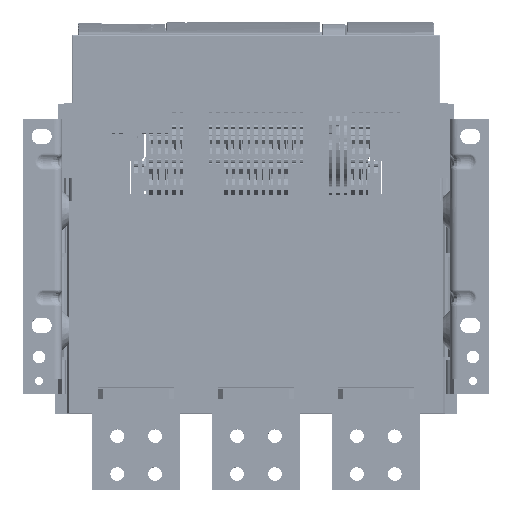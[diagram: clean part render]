
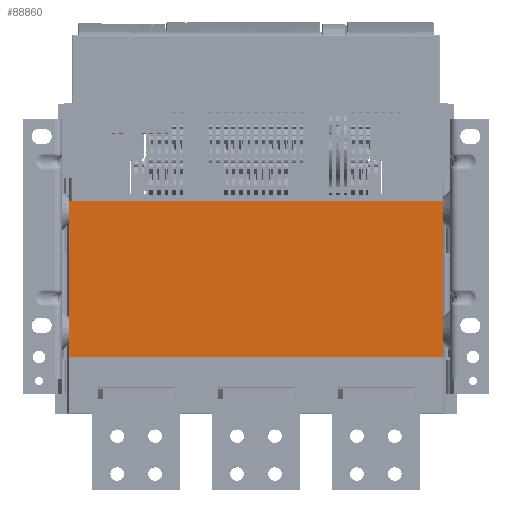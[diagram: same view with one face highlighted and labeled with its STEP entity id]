
A CAD part, top view. The second image highlights one B-rep face of the part: STEP entity #88860.
In plain terms, the highlighted planar face has unit normal (0, 0, 1).
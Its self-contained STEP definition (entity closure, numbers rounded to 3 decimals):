
#6164=FACE_OUTER_BOUND('',#11146,.T.);
#11146=EDGE_LOOP('',(#70036,#70037,#70038,#70039));
#20869=LINE('',#179003,#30195);
#20947=LINE('',#179179,#30273);
#21181=LINE('',#179690,#30507);
#21183=LINE('',#179694,#30509);
#30195=VECTOR('',#110963,296.);
#30273=VECTOR('',#111065,296.);
#30507=VECTOR('',#111493,123.);
#30509=VECTOR('',#111499,123.);
#39513=VERTEX_POINT('',#179000);
#39514=VERTEX_POINT('',#179002);
#39599=VERTEX_POINT('',#179176);
#39600=VERTEX_POINT('',#179178);
#50236=EDGE_CURVE('',#39513,#39514,#20869,.T.);
#50324=EDGE_CURVE('',#39600,#39599,#20947,.T.);
#50580=EDGE_CURVE('',#39599,#39514,#21181,.T.);
#50582=EDGE_CURVE('',#39600,#39513,#21183,.T.);
#70036=ORIENTED_EDGE('',*,*,#50324,.T.);
#70037=ORIENTED_EDGE('',*,*,#50580,.T.);
#70038=ORIENTED_EDGE('',*,*,#50236,.F.);
#70039=ORIENTED_EDGE('',*,*,#50582,.F.);
#84345=PLANE('',#95608);
#88860=ADVANCED_FACE('',(#6164),#84345,.T.);
#95608=AXIS2_PLACEMENT_3D('',#179693,#111497,#111498);
#110963=DIRECTION('',(1.,0.,0.));
#111065=DIRECTION('',(1.,0.,0.));
#111493=DIRECTION('',(0.,1.,0.));
#111497=DIRECTION('center_axis',(0.,0.,1.));
#111498=DIRECTION('ref_axis',(1.,0.,0.));
#111499=DIRECTION('',(0.,1.,0.));
#179000=CARTESIAN_POINT('',(-148.,123.,150.));
#179002=CARTESIAN_POINT('',(148.,123.,150.));
#179003=CARTESIAN_POINT('',(-148.,123.,150.));
#179176=CARTESIAN_POINT('',(148.,0.,150.));
#179178=CARTESIAN_POINT('',(-148.,0.,150.));
#179179=CARTESIAN_POINT('',(-148.,0.,150.));
#179690=CARTESIAN_POINT('',(148.,0.,150.));
#179693=CARTESIAN_POINT('Origin',(-148.,0.,150.));
#179694=CARTESIAN_POINT('',(-148.,0.,150.));
